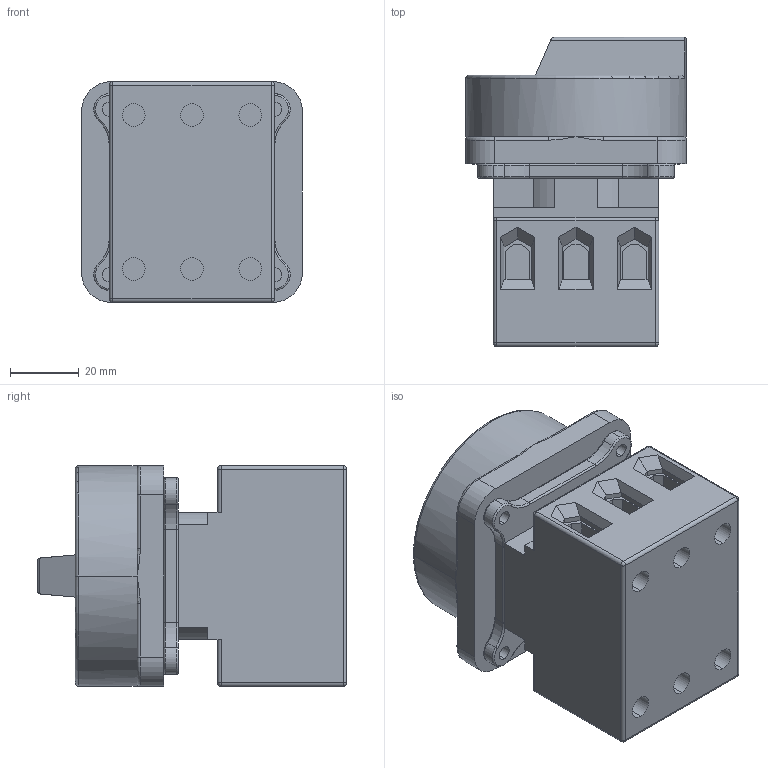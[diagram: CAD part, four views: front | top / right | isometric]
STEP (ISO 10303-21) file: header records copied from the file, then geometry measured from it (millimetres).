
FILE_DESCRIPTION (( 'STEP AP203' ), '1' );
FILE_NAME ('LTS63_80 EHN4 A3.STEP', '2014-04-02T09:26:14', ( '' ), ( '' ), 'SwSTEP 2.0', 'SolidWorks 2014', '' );
FILE_SCHEMA (( 'CONFIG_CONTROL_DESIGN' ));
Length unit declared in the file: millimetre
Products named in the file (4): Schalterkörper LTS63_80 E_ohne frontplatte; Frontplatte 64x64; SV4_64x64; LTS63_80 EHN4 A3
Assembly tree (3 placements, depth 2):
  LTS63_80 EHN4 A3
    Schalterkörper LTS63_80 E_ohne frontplatte
    Frontplatte 64x64
    SV4_64x64
Bounding box: 64 x 89.7 x 64 mm (x, y, z)
Volume: 204775.9 mm3; surface area: 44871.9 mm2
Topology: 3 solids, 3 shells, 298 faces, 740 edges, 446 vertices
Faces by surface type: plane 160, cylinder 84, torus 36, bspline 10, sphere 8
Entity records: 9380 total; most frequent: CARTESIAN_POINT 1909, DIRECTION 1520, ORIENTED_EDGE 1448, EDGE_CURVE 724, AXIS2_PLACEMENT_3D 533, LINE 454, VECTOR 454, VERTEX_POINT 446
